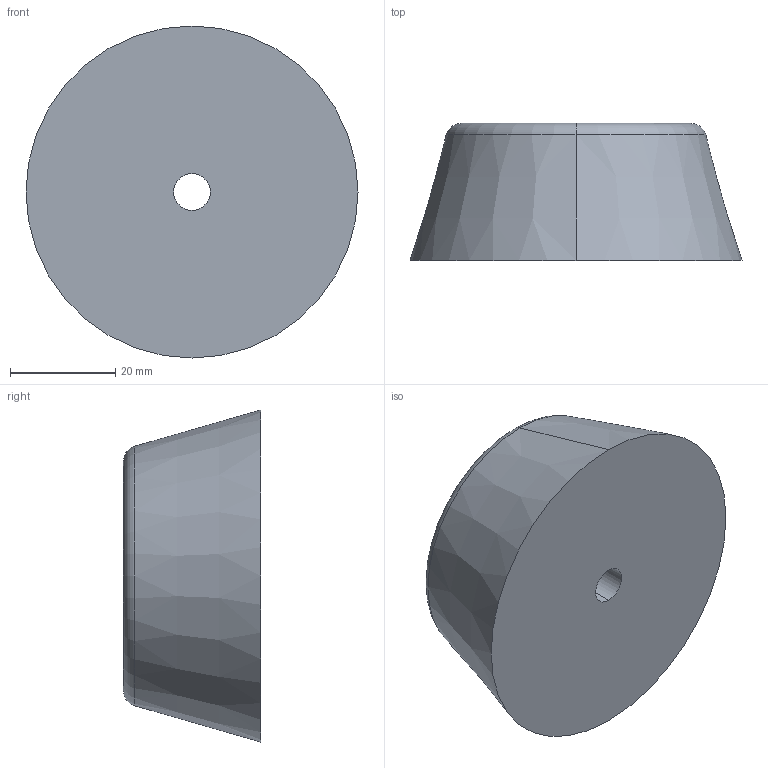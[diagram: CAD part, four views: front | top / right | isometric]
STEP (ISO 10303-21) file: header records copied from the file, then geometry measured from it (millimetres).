
FILE_DESCRIPTION (( 'STEP AP203' ), '1' );
FILE_NAME ('K-63.STEP', '2013-07-15T07:03:19', ( 'SDS' ), ( 'SDS' ), 'SwSTEP 2.0', 'SolidWorks 2002296', '' );
FILE_SCHEMA (( 'CONFIG_CONTROL_DESIGN' ));
Length unit declared in the file: millimetre
Products named in the file (1): K-63
Bounding box: 63 x 26 x 63 mm (x, y, z)
Volume: 60406.7 mm3; surface area: 10370.1 mm2
Topology: 1 solids, 1 shells, 11 faces, 22 edges, 14 vertices
Faces by surface type: cylinder 4, plane 3, torus 2, cone 2
Entity records: 377 total; most frequent: DIRECTION 62, CARTESIAN_POINT 48, ORIENTED_EDGE 44, AXIS2_PLACEMENT_3D 28, EDGE_CURVE 22, CIRCLE 16, EDGE_LOOP 14, VERTEX_POINT 14
